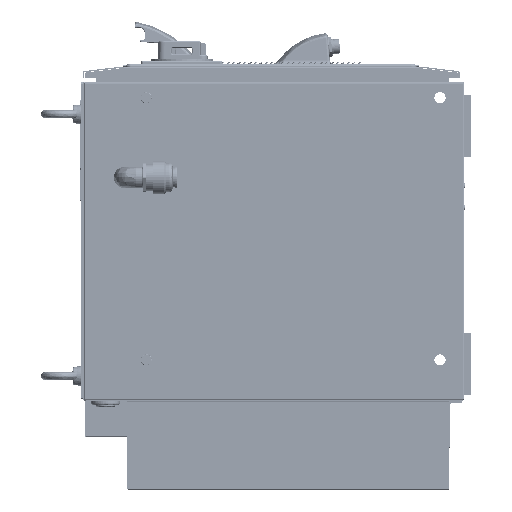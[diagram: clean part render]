
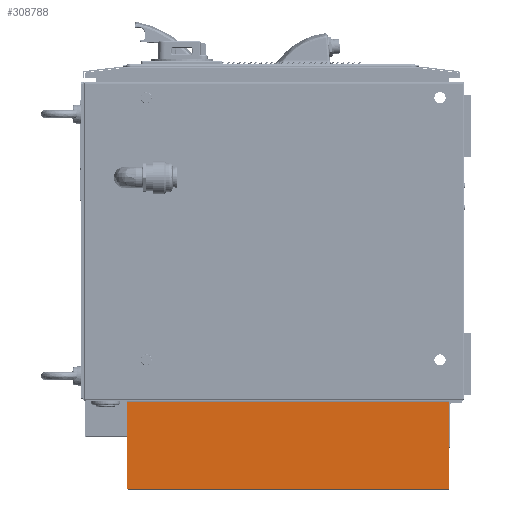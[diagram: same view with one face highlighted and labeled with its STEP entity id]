
A CAD part, left-side view. The second image highlights one B-rep face of the part: STEP entity #308788.
In plain terms, the highlighted planar face has unit normal (-1, 0, 0) as drawn and (1, 0, 0) by its records, which use the part's own axes.
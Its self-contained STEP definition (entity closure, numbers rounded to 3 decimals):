
#59699 = VERTEX_POINT ( 'NONE', #210986 ) ;
#62190 = EDGE_CURVE ( 'NONE', #307941, #169716, #235354, .T. ) ;
#75749 = DIRECTION ( 'NONE',  ( 0., 0., -1. ) ) ;
#78064 = CARTESIAN_POINT ( 'NONE',  ( 120., 0., -111.6 ) ) ;
#86111 = VECTOR ( 'NONE', #109234, 1000. ) ;
#86182 = CARTESIAN_POINT ( 'NONE',  ( 120., 0., -111.6 ) ) ;
#87772 = VERTEX_POINT ( 'NONE', #86182 ) ;
#98502 = AXIS2_PLACEMENT_3D ( 'NONE', #177210, #390199, #208389 ) ;
#109234 = DIRECTION ( 'NONE',  ( 0., 1., 0. ) ) ;
#146675 = DIRECTION ( 'NONE',  ( 0., 0., 1. ) ) ;
#152592 = CARTESIAN_POINT ( 'NONE',  ( 120., 412., -111.6 ) ) ;
#165769 = EDGE_CURVE ( 'NONE', #169716, #59699, #278190, .T. ) ;
#169716 = VERTEX_POINT ( 'NONE', #249312 ) ;
#170110 = EDGE_LOOP ( 'NONE', ( #222940, #261927, #209278, #224821 ) ) ;
#177210 = CARTESIAN_POINT ( 'NONE',  ( 120., 0., 1.6 ) ) ;
#182950 = LINE ( 'NONE', #78064, #86111 ) ;
#208389 = DIRECTION ( 'NONE',  ( 0., -1., 0. ) ) ;
#209278 = ORIENTED_EDGE ( 'NONE', *, *, #165769, .T. ) ;
#210986 = CARTESIAN_POINT ( 'NONE',  ( 120., 0., -0.2 ) ) ;
#218210 = EDGE_CURVE ( 'NONE', #87772, #307941, #182950, .T. ) ;
#222940 = ORIENTED_EDGE ( 'NONE', *, *, #218210, .T. ) ;
#224821 = ORIENTED_EDGE ( 'NONE', *, *, #352354, .T. ) ;
#226076 = FACE_OUTER_BOUND ( 'NONE', #170110, .T. ) ;
#235354 = LINE ( 'NONE', #389526, #347102 ) ;
#238559 = CARTESIAN_POINT ( 'NONE',  ( 120., 412., -0.2 ) ) ;
#244302 = VECTOR ( 'NONE', #338869, 1000. ) ;
#249312 = CARTESIAN_POINT ( 'NONE',  ( 120., 412., -0.2 ) ) ;
#261927 = ORIENTED_EDGE ( 'NONE', *, *, #62190, .T. ) ;
#278190 = LINE ( 'NONE', #238559, #244302 ) ;
#307941 = VERTEX_POINT ( 'NONE', #152592 ) ;
#308788 = ADVANCED_FACE ( 'NONE', ( #226076 ), #330558, .T. ) ;
#330558 = PLANE ( 'NONE',  #98502 ) ;
#338869 = DIRECTION ( 'NONE',  ( 0., -1., 0. ) ) ;
#340532 = VECTOR ( 'NONE', #75749, 1000. ) ;
#347102 = VECTOR ( 'NONE', #146675, 1000. ) ;
#352354 = EDGE_CURVE ( 'NONE', #59699, #87772, #393806, .T. ) ;
#357672 = CARTESIAN_POINT ( 'NONE',  ( 120., 0., -0.2 ) ) ;
#389526 = CARTESIAN_POINT ( 'NONE',  ( 120., 412., -111.6 ) ) ;
#390199 = DIRECTION ( 'NONE',  ( 1., 0., 0. ) ) ;
#393806 = LINE ( 'NONE', #357672, #340532 ) ;
